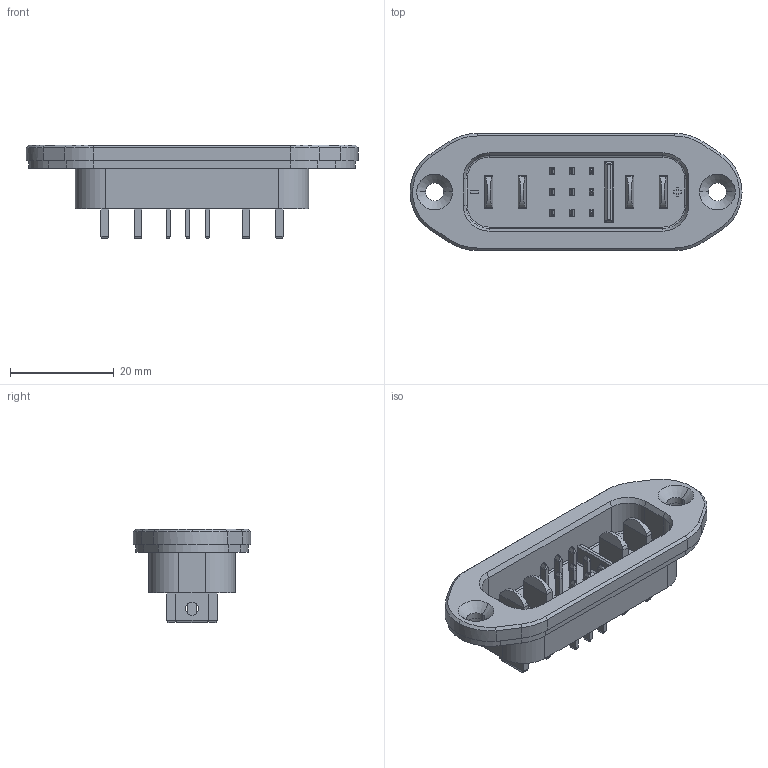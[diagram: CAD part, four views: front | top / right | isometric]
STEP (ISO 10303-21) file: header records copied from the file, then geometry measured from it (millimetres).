
FILE_DESCRIPTION((''),'2;1');
FILE_NAME('4P9S-MALE-WTW_ASM','2024-11-20T',('c3952'),(''),'CREO PARAMETRIC BY PTC INC, 2014500','CREO PARAMETRIC BY PTC INC, 2014500','');
FILE_SCHEMA(('AUTOMOTIVE_DESIGN { 1 0 10303 214 1 1 1 1 }'));
Length unit declared in the file: millimetre
Products named in the file (5): T1-4P9S-MALE_WTW; T5-DA-M; T5_DA_M-1; MALE_RUBBER; 4P9S-MALE-WTW_ASM
Assembly tree (15 placements, depth 2):
  4P9S-MALE-WTW_ASM
    T1-4P9S-MALE_WTW
    T5-DA-M  x9
    T5_DA_M-1  x4
    MALE_RUBBER
Bounding box: 64 x 22.6 x 18.1 mm (x, y, z)
Volume: 6704.6 mm3; surface area: 8637.8 mm2
Topology: 15 solids, 15 shells, 1012 faces, 2711 edges, 1735 vertices
Faces by surface type: plane 696, cylinder 297, cone 15, torus 4
Entity records: 17066 total; most frequent: CARTESIAN_POINT 2430, ORIENTED_EDGE 2278, DIRECTION 2176, PRESENTATION_STYLE_ASSIGNMENT 1143, STYLED_ITEM 1143, CURVE_STYLE 1139, EDGE_CURVE 1139, VECTOR 954
